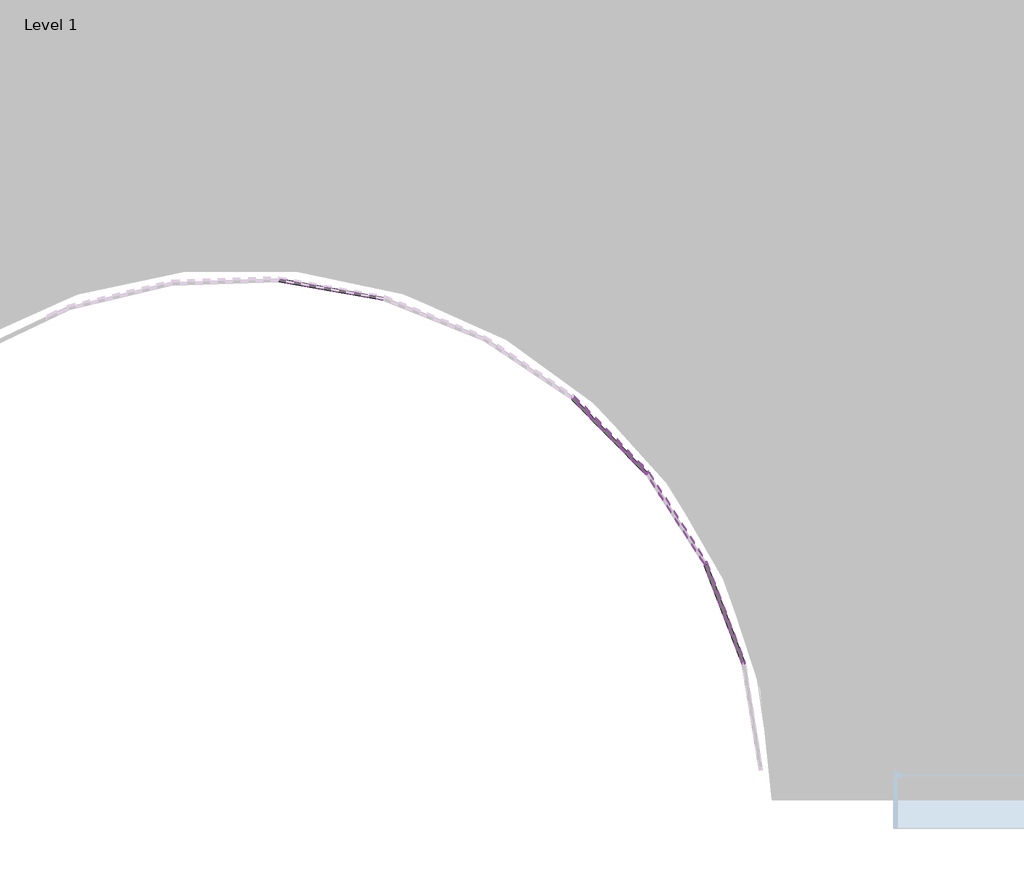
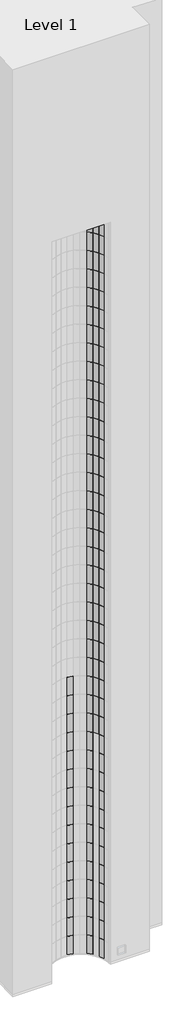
# One storey, part 9 of 20: 123 plates.
"""IFC4 building model written with IfcOpenShell, lengths in millimetres."""

from ifc_helpers import new_model, si_unit, origin, place, context, project, spatial, transform, mapped, element, save
from components import system_panel_glazed_d77d1ebf

model = new_model("IFC4")

# Units and contexts
model_context = context("Model", 3, world=origin())
ifc_project = project(units=[si_unit("LENGTHUNIT", "METRE", prefix="MILLI")], contexts=[model_context])

# Site, building, storey
site = spatial("IfcSite", under=ifc_project)
building = spatial("IfcBuilding", under=site)
storey = spatial("IfcBuildingStorey", under=building, Name="Level 1", Elevation=0.0)

# Plates
placement = place(None, origin())
system_panel_glazed_shape = system_panel_glazed_d77d1ebf(model_context)
element("IfcPlate", 1, ObjectType="System Panel : Glazed", at=placement, inside=storey, context=model_context, shape_type="MappedRepresentation", body=[
    mapped(system_panel_glazed_shape, transform((4291.5961904, -17071.9370863, 0.0), x_axis=(-0.9845824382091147, 0.17492118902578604, 0.0), y_axis=(-0.17492118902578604, -0.9845824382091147, 0.0), z_axis=(0.0, 0.0, 1.0))),
])
element("IfcPlate", 2, ObjectType="System Panel : Glazed", at=placement, inside=storey, context=model_context, shape_type="MappedRepresentation", body=[
    mapped(system_panel_glazed_shape, transform((4291.5961904, -17071.9370863, 3048.0), x_axis=(-0.9845824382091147, 0.17492118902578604, 0.0), y_axis=(-0.17492118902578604, -0.9845824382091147, 0.0), z_axis=(0.0, 0.0, 1.0))),
])
element("IfcPlate", 3, ObjectType="System Panel : Glazed", at=placement, inside=storey, context=model_context, shape_type="MappedRepresentation", body=[
    mapped(system_panel_glazed_shape, transform((4291.5961904, -17071.9370863, 6096.0), x_axis=(-0.9845824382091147, 0.17492118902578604, 0.0), y_axis=(-0.17492118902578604, -0.9845824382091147, 0.0), z_axis=(0.0, 0.0, 1.0))),
])
element("IfcPlate", 4, ObjectType="System Panel : Glazed", at=placement, inside=storey, context=model_context, shape_type="MappedRepresentation", body=[
    mapped(system_panel_glazed_shape, transform((4291.5961904, -17071.9370863, 9144.0), x_axis=(-0.9845824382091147, 0.17492118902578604, 0.0), y_axis=(-0.17492118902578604, -0.9845824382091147, 0.0), z_axis=(0.0, 0.0, 1.0))),
])
element("IfcPlate", 5, ObjectType="System Panel : Glazed", at=placement, inside=storey, context=model_context, shape_type="MappedRepresentation", body=[
    mapped(system_panel_glazed_shape, transform((4291.5961904, -17071.9370863, 12192.0), x_axis=(-0.9845824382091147, 0.17492118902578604, 0.0), y_axis=(-0.17492118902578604, -0.9845824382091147, 0.0), z_axis=(0.0, 0.0, 1.0))),
])
element("IfcPlate", 6, ObjectType="System Panel : Glazed", at=placement, inside=storey, context=model_context, shape_type="MappedRepresentation", body=[
    mapped(system_panel_glazed_shape, transform((4291.5961904, -17071.9370863, 15240.0), x_axis=(-0.9845824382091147, 0.17492118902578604, 0.0), y_axis=(-0.17492118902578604, -0.9845824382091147, 0.0), z_axis=(0.0, 0.0, 1.0))),
])
element("IfcPlate", 7, ObjectType="System Panel : Glazed", at=placement, inside=storey, context=model_context, shape_type="MappedRepresentation", body=[
    mapped(system_panel_glazed_shape, transform((4291.5961904, -17071.9370863, 18288.0), x_axis=(-0.9845824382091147, 0.17492118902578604, 0.0), y_axis=(-0.17492118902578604, -0.9845824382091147, 0.0), z_axis=(0.0, 0.0, 1.0))),
])
element("IfcPlate", 8, ObjectType="System Panel : Glazed", at=placement, inside=storey, context=model_context, shape_type="MappedRepresentation", body=[
    mapped(system_panel_glazed_shape, transform((4291.5961904, -17071.9370863, 21336.0), x_axis=(-0.9845824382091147, 0.17492118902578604, 0.0), y_axis=(-0.17492118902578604, -0.9845824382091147, 0.0), z_axis=(0.0, 0.0, 1.0))),
])
element("IfcPlate", 9, ObjectType="System Panel : Glazed", at=placement, inside=storey, context=model_context, shape_type="MappedRepresentation", body=[
    mapped(system_panel_glazed_shape, transform((4291.5961904, -17071.9370863, 24384.0), x_axis=(-0.9845824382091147, 0.17492118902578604, 0.0), y_axis=(-0.17492118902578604, -0.9845824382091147, 0.0), z_axis=(0.0, 0.0, 1.0))),
])
element("IfcPlate", 10, ObjectType="System Panel : Glazed", at=placement, inside=storey, context=model_context, shape_type="MappedRepresentation", body=[
    mapped(system_panel_glazed_shape, transform((4291.5961904, -17071.9370863, 27432.0), x_axis=(-0.9845824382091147, 0.17492118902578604, 0.0), y_axis=(-0.17492118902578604, -0.9845824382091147, 0.0), z_axis=(0.0, 0.0, 1.0))),
])
element("IfcPlate", 11, ObjectType="System Panel : Glazed", at=placement, inside=storey, context=model_context, shape_type="MappedRepresentation", body=[
    mapped(system_panel_glazed_shape, transform((4291.5961904, -17071.9370863, 30480.0), x_axis=(-0.9845824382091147, 0.17492118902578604, 0.0), y_axis=(-0.17492118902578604, -0.9845824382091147, 0.0), z_axis=(0.0, 0.0, 1.0))),
])
element("IfcPlate", 12, ObjectType="System Panel : Glazed", at=placement, inside=storey, context=model_context, shape_type="MappedRepresentation", body=[
    mapped(system_panel_glazed_shape, transform((4291.5961904, -17071.9370863, 33528.0), x_axis=(-0.9845824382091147, 0.17492118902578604, 0.0), y_axis=(-0.17492118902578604, -0.9845824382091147, 0.0), z_axis=(0.0, 0.0, 1.0))),
])
element("IfcPlate", 13, ObjectType="System Panel : Glazed", at=placement, inside=storey, context=model_context, shape_type="MappedRepresentation", body=[
    mapped(system_panel_glazed_shape, transform((4291.5961904, -17071.9370863, 36576.0), x_axis=(-0.9845824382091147, 0.17492118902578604, 0.0), y_axis=(-0.17492118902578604, -0.9845824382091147, 0.0), z_axis=(0.0, 0.0, 1.0))),
])
element("IfcPlate", 14, ObjectType="System Panel : Glazed", at=placement, inside=storey, context=model_context, shape_type="MappedRepresentation", body=[
    mapped(system_panel_glazed_shape, transform((4291.5961904, -17071.9370863, 39624.0), x_axis=(-0.9845824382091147, 0.17492118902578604, 0.0), y_axis=(-0.17492118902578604, -0.9845824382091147, 0.0), z_axis=(0.0, 0.0, 1.0))),
])
element("IfcPlate", 15, ObjectType="System Panel : Glazed", at=placement, inside=storey, context=model_context, shape_type="MappedRepresentation", body=[
    mapped(system_panel_glazed_shape, transform((4291.5961904, -17071.9370863, 42672.0), x_axis=(-0.9845824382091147, 0.17492118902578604, 0.0), y_axis=(-0.17492118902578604, -0.9845824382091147, 0.0), z_axis=(0.0, 0.0, 1.0))),
])
element("IfcPlate", 16, ObjectType="System Panel : Glazed", at=placement, inside=storey, context=model_context, shape_type="MappedRepresentation", body=[
    mapped(system_panel_glazed_shape, transform((6671.9279427, -18325.4865679, 0.0), x_axis=(-0.7012698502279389, 0.7128959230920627, 0.0), y_axis=(-0.7128959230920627, -0.7012698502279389, 0.0), z_axis=(0.0, 0.0, 1.0))),
])
element("IfcPlate", 17, ObjectType="System Panel : Glazed", at=placement, inside=storey, context=model_context, shape_type="MappedRepresentation", body=[
    mapped(system_panel_glazed_shape, transform((6671.9279427, -18325.4865679, 3048.0), x_axis=(-0.7012698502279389, 0.7128959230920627, 0.0), y_axis=(-0.7128959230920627, -0.7012698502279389, 0.0), z_axis=(0.0, 0.0, 1.0))),
])
element("IfcPlate", 18, ObjectType="System Panel : Glazed", at=placement, inside=storey, context=model_context, shape_type="MappedRepresentation", body=[
    mapped(system_panel_glazed_shape, transform((6671.9279427, -18325.4865679, 6096.0), x_axis=(-0.7012698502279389, 0.7128959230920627, 0.0), y_axis=(-0.7128959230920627, -0.7012698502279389, 0.0), z_axis=(0.0, 0.0, 1.0))),
])
element("IfcPlate", 19, ObjectType="System Panel : Glazed", at=placement, inside=storey, context=model_context, shape_type="MappedRepresentation", body=[
    mapped(system_panel_glazed_shape, transform((6671.9279427, -18325.4865679, 9144.0), x_axis=(-0.7012698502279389, 0.7128959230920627, 0.0), y_axis=(-0.7128959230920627, -0.7012698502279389, 0.0), z_axis=(0.0, 0.0, 1.0))),
])
element("IfcPlate", 20, ObjectType="System Panel : Glazed", at=placement, inside=storey, context=model_context, shape_type="MappedRepresentation", body=[
    mapped(system_panel_glazed_shape, transform((6671.9279427, -18325.4865679, 12192.0), x_axis=(-0.7012698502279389, 0.7128959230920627, 0.0), y_axis=(-0.7128959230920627, -0.7012698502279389, 0.0), z_axis=(0.0, 0.0, 1.0))),
])
element("IfcPlate", 21, ObjectType="System Panel : Glazed", at=placement, inside=storey, context=model_context, shape_type="MappedRepresentation", body=[
    mapped(system_panel_glazed_shape, transform((6671.9279427, -18325.4865679, 15240.0), x_axis=(-0.7012698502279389, 0.7128959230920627, 0.0), y_axis=(-0.7128959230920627, -0.7012698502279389, 0.0), z_axis=(0.0, 0.0, 1.0))),
])
element("IfcPlate", 22, ObjectType="System Panel : Glazed", at=placement, inside=storey, context=model_context, shape_type="MappedRepresentation", body=[
    mapped(system_panel_glazed_shape, transform((6671.9279427, -18325.4865679, 18288.0), x_axis=(-0.7012698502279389, 0.7128959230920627, 0.0), y_axis=(-0.7128959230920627, -0.7012698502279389, 0.0), z_axis=(0.0, 0.0, 1.0))),
])
element("IfcPlate", 23, ObjectType="System Panel : Glazed", at=placement, inside=storey, context=model_context, shape_type="MappedRepresentation", body=[
    mapped(system_panel_glazed_shape, transform((6671.9279427, -18325.4865679, 21336.0), x_axis=(-0.7012698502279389, 0.7128959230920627, 0.0), y_axis=(-0.7128959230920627, -0.7012698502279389, 0.0), z_axis=(0.0, 0.0, 1.0))),
])
element("IfcPlate", 24, ObjectType="System Panel : Glazed", at=placement, inside=storey, context=model_context, shape_type="MappedRepresentation", body=[
    mapped(system_panel_glazed_shape, transform((6671.9279427, -18325.4865679, 24384.0), x_axis=(-0.7012698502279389, 0.7128959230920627, 0.0), y_axis=(-0.7128959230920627, -0.7012698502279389, 0.0), z_axis=(0.0, 0.0, 1.0))),
])
element("IfcPlate", 25, ObjectType="System Panel : Glazed", at=placement, inside=storey, context=model_context, shape_type="MappedRepresentation", body=[
    mapped(system_panel_glazed_shape, transform((6671.9279427, -18325.4865679, 27432.0), x_axis=(-0.7012698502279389, 0.7128959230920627, 0.0), y_axis=(-0.7128959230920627, -0.7012698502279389, 0.0), z_axis=(0.0, 0.0, 1.0))),
])
element("IfcPlate", 26, ObjectType="System Panel : Glazed", at=placement, inside=storey, context=model_context, shape_type="MappedRepresentation", body=[
    mapped(system_panel_glazed_shape, transform((6671.9279427, -18325.4865679, 30480.0), x_axis=(-0.7012698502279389, 0.7128959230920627, 0.0), y_axis=(-0.7128959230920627, -0.7012698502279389, 0.0), z_axis=(0.0, 0.0, 1.0))),
])
element("IfcPlate", 27, ObjectType="System Panel : Glazed", at=placement, inside=storey, context=model_context, shape_type="MappedRepresentation", body=[
    mapped(system_panel_glazed_shape, transform((6671.9279427, -18325.4865679, 33528.0), x_axis=(-0.7012698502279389, 0.7128959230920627, 0.0), y_axis=(-0.7128959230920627, -0.7012698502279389, 0.0), z_axis=(0.0, 0.0, 1.0))),
])
element("IfcPlate", 28, ObjectType="System Panel : Glazed", at=placement, inside=storey, context=model_context, shape_type="MappedRepresentation", body=[
    mapped(system_panel_glazed_shape, transform((6671.9279427, -18325.4865679, 36576.0), x_axis=(-0.7012698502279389, 0.7128959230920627, 0.0), y_axis=(-0.7128959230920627, -0.7012698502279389, 0.0), z_axis=(0.0, 0.0, 1.0))),
])
element("IfcPlate", 29, ObjectType="System Panel : Glazed", at=placement, inside=storey, context=model_context, shape_type="MappedRepresentation", body=[
    mapped(system_panel_glazed_shape, transform((6671.9279427, -18325.4865679, 39624.0), x_axis=(-0.7012698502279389, 0.7128959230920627, 0.0), y_axis=(-0.7128959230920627, -0.7012698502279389, 0.0), z_axis=(0.0, 0.0, 1.0))),
])
element("IfcPlate", 30, ObjectType="System Panel : Glazed", at=placement, inside=storey, context=model_context, shape_type="MappedRepresentation", body=[
    mapped(system_panel_glazed_shape, transform((6671.9279427, -18325.4865679, 42672.0), x_axis=(-0.7012698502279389, 0.7128959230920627, 0.0), y_axis=(-0.7128959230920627, -0.7012698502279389, 0.0), z_axis=(0.0, 0.0, 1.0))),
])
element("IfcPlate", 31, ObjectType="System Panel : Glazed", at=placement, inside=storey, context=model_context, shape_type="MappedRepresentation", body=[
    mapped(system_panel_glazed_shape, transform((6671.9279427, -18325.4865679, 45720.0), x_axis=(-0.7012698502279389, 0.7128959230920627, 0.0), y_axis=(-0.7128959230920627, -0.7012698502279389, 0.0), z_axis=(0.0, 0.0, 1.0))),
])
element("IfcPlate", 32, ObjectType="System Panel : Glazed", at=placement, inside=storey, context=model_context, shape_type="MappedRepresentation", body=[
    mapped(system_panel_glazed_shape, transform((6671.9279427, -18325.4865679, 48768.0), x_axis=(-0.7012698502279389, 0.7128959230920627, 0.0), y_axis=(-0.7128959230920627, -0.7012698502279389, 0.0), z_axis=(0.0, 0.0, 1.0))),
])
element("IfcPlate", 33, ObjectType="System Panel : Glazed", at=placement, inside=storey, context=model_context, shape_type="MappedRepresentation", body=[
    mapped(system_panel_glazed_shape, transform((6671.9279427, -18325.4865679, 51816.0), x_axis=(-0.7012698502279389, 0.7128959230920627, 0.0), y_axis=(-0.7128959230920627, -0.7012698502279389, 0.0), z_axis=(0.0, 0.0, 1.0))),
])
element("IfcPlate", 34, ObjectType="System Panel : Glazed", at=placement, inside=storey, context=model_context, shape_type="MappedRepresentation", body=[
    mapped(system_panel_glazed_shape, transform((6671.9279427, -18325.4865679, 54864.0), x_axis=(-0.7012698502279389, 0.7128959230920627, 0.0), y_axis=(-0.7128959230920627, -0.7012698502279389, 0.0), z_axis=(0.0, 0.0, 1.0))),
])
element("IfcPlate", 35, ObjectType="System Panel : Glazed", at=placement, inside=storey, context=model_context, shape_type="MappedRepresentation", body=[
    mapped(system_panel_glazed_shape, transform((6671.9279427, -18325.4865679, 57912.0), x_axis=(-0.7012698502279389, 0.7128959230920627, 0.0), y_axis=(-0.7128959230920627, -0.7012698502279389, 0.0), z_axis=(0.0, 0.0, 1.0))),
])
element("IfcPlate", 36, ObjectType="System Panel : Glazed", at=placement, inside=storey, context=model_context, shape_type="MappedRepresentation", body=[
    mapped(system_panel_glazed_shape, transform((6671.9279427, -18325.4865679, 60960.0), x_axis=(-0.7012698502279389, 0.7128959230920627, 0.0), y_axis=(-0.7128959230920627, -0.7012698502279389, 0.0), z_axis=(0.0, 0.0, 1.0))),
])
element("IfcPlate", 37, ObjectType="System Panel : Glazed", at=placement, inside=storey, context=model_context, shape_type="MappedRepresentation", body=[
    mapped(system_panel_glazed_shape, transform((6671.9279427, -18325.4865679, 64008.0), x_axis=(-0.7012698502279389, 0.7128959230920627, 0.0), y_axis=(-0.7128959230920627, -0.7012698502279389, 0.0), z_axis=(0.0, 0.0, 1.0))),
])
element("IfcPlate", 38, ObjectType="System Panel : Glazed", at=placement, inside=storey, context=model_context, shape_type="MappedRepresentation", body=[
    mapped(system_panel_glazed_shape, transform((6671.9279427, -18325.4865679, 67056.0), x_axis=(-0.7012698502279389, 0.7128959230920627, 0.0), y_axis=(-0.7128959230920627, -0.7012698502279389, 0.0), z_axis=(0.0, 0.0, 1.0))),
])
element("IfcPlate", 39, ObjectType="System Panel : Glazed", at=placement, inside=storey, context=model_context, shape_type="MappedRepresentation", body=[
    mapped(system_panel_glazed_shape, transform((6671.9279427, -18325.4865679, 70104.0), x_axis=(-0.7012698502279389, 0.7128959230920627, 0.0), y_axis=(-0.7128959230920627, -0.7012698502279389, 0.0), z_axis=(0.0, 0.0, 1.0))),
])
element("IfcPlate", 40, ObjectType="System Panel : Glazed", at=placement, inside=storey, context=model_context, shape_type="MappedRepresentation", body=[
    mapped(system_panel_glazed_shape, transform((6671.9279427, -18325.4865679, 73152.0), x_axis=(-0.7012698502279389, 0.7128959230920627, 0.0), y_axis=(-0.7128959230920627, -0.7012698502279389, 0.0), z_axis=(0.0, 0.0, 1.0))),
])
element("IfcPlate", 41, ObjectType="System Panel : Glazed", at=placement, inside=storey, context=model_context, shape_type="MappedRepresentation", body=[
    mapped(system_panel_glazed_shape, transform((6671.9279427, -18325.4865679, 76200.0), x_axis=(-0.7012698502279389, 0.7128959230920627, 0.0), y_axis=(-0.7128959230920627, -0.7012698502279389, 0.0), z_axis=(0.0, 0.0, 1.0))),
])
element("IfcPlate", 42, ObjectType="System Panel : Glazed", at=placement, inside=storey, context=model_context, shape_type="MappedRepresentation", body=[
    mapped(system_panel_glazed_shape, transform((6671.9279427, -18325.4865679, 79248.0), x_axis=(-0.7012698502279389, 0.7128959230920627, 0.0), y_axis=(-0.7128959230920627, -0.7012698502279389, 0.0), z_axis=(0.0, 0.0, 1.0))),
])
element("IfcPlate", 43, ObjectType="System Panel : Glazed", at=placement, inside=storey, context=model_context, shape_type="MappedRepresentation", body=[
    mapped(system_panel_glazed_shape, transform((6671.9279427, -18325.4865679, 82296.0), x_axis=(-0.7012698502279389, 0.7128959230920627, 0.0), y_axis=(-0.7128959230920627, -0.7012698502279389, 0.0), z_axis=(0.0, 0.0, 1.0))),
])
element("IfcPlate", 44, ObjectType="System Panel : Glazed", at=placement, inside=storey, context=model_context, shape_type="MappedRepresentation", body=[
    mapped(system_panel_glazed_shape, transform((6671.9279427, -18325.4865679, 85344.0), x_axis=(-0.7012698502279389, 0.7128959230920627, 0.0), y_axis=(-0.7128959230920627, -0.7012698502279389, 0.0), z_axis=(0.0, 0.0, 1.0))),
])
element("IfcPlate", 45, ObjectType="System Panel : Glazed", at=placement, inside=storey, context=model_context, shape_type="MappedRepresentation", body=[
    mapped(system_panel_glazed_shape, transform((6671.9279427, -18325.4865679, 88392.0), x_axis=(-0.7012698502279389, 0.7128959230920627, 0.0), y_axis=(-0.7128959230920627, -0.7012698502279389, 0.0), z_axis=(0.0, 0.0, 1.0))),
])
element("IfcPlate", 46, ObjectType="System Panel : Glazed", at=placement, inside=storey, context=model_context, shape_type="MappedRepresentation", body=[
    mapped(system_panel_glazed_shape, transform((6671.9279427, -18325.4865679, 91440.0), x_axis=(-0.7012698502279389, 0.7128959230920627, 0.0), y_axis=(-0.7128959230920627, -0.7012698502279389, 0.0), z_axis=(0.0, 0.0, 1.0))),
])
element("IfcPlate", 47, ObjectType="System Panel : Glazed", at=placement, inside=storey, context=model_context, shape_type="MappedRepresentation", body=[
    mapped(system_panel_glazed_shape, transform((6671.9279427, -18325.4865679, 94488.0), x_axis=(-0.7012698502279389, 0.7128959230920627, 0.0), y_axis=(-0.7128959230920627, -0.7012698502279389, 0.0), z_axis=(0.0, 0.0, 1.0))),
])
element("IfcPlate", 48, ObjectType="System Panel : Glazed", at=placement, inside=storey, context=model_context, shape_type="MappedRepresentation", body=[
    mapped(system_panel_glazed_shape, transform((6671.9279427, -18325.4865679, 97536.0), x_axis=(-0.7012698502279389, 0.7128959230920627, 0.0), y_axis=(-0.7128959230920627, -0.7012698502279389, 0.0), z_axis=(0.0, 0.0, 1.0))),
])
element("IfcPlate", 49, ObjectType="System Panel : Glazed", at=placement, inside=storey, context=model_context, shape_type="MappedRepresentation", body=[
    mapped(system_panel_glazed_shape, transform((6671.9279427, -18325.4865679, 100584.0), x_axis=(-0.7012698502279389, 0.7128959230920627, 0.0), y_axis=(-0.7128959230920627, -0.7012698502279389, 0.0), z_axis=(0.0, 0.0, 1.0))),
])
element("IfcPlate", 50, ObjectType="System Panel : Glazed", at=placement, inside=storey, context=model_context, shape_type="MappedRepresentation", body=[
    mapped(system_panel_glazed_shape, transform((7239.747729, -19036.0319834, 36576.0), x_axis=(-0.5406806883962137, 0.8412279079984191, 0.0), y_axis=(-0.8412279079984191, -0.5406806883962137, 0.0), z_axis=(0.0, 0.0, 1.0))),
])
element("IfcPlate", 51, ObjectType="System Panel : Glazed", at=placement, inside=storey, context=model_context, shape_type="MappedRepresentation", body=[
    mapped(system_panel_glazed_shape, transform((7239.747729, -19036.0319834, 39624.0), x_axis=(-0.5406806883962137, 0.8412279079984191, 0.0), y_axis=(-0.8412279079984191, -0.5406806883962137, 0.0), z_axis=(0.0, 0.0, 1.0))),
])
element("IfcPlate", 52, ObjectType="System Panel : Glazed", at=placement, inside=storey, context=model_context, shape_type="MappedRepresentation", body=[
    mapped(system_panel_glazed_shape, transform((7239.747729, -19036.0319834, 42672.0), x_axis=(-0.5406806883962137, 0.8412279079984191, 0.0), y_axis=(-0.8412279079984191, -0.5406806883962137, 0.0), z_axis=(0.0, 0.0, 1.0))),
])
element("IfcPlate", 53, ObjectType="System Panel : Glazed", at=placement, inside=storey, context=model_context, shape_type="MappedRepresentation", body=[
    mapped(system_panel_glazed_shape, transform((7239.747729, -19036.0319834, 45720.0), x_axis=(-0.5406806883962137, 0.8412279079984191, 0.0), y_axis=(-0.8412279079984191, -0.5406806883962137, 0.0), z_axis=(0.0, 0.0, 1.0))),
])
element("IfcPlate", 54, ObjectType="System Panel : Glazed", at=placement, inside=storey, context=model_context, shape_type="MappedRepresentation", body=[
    mapped(system_panel_glazed_shape, transform((7239.747729, -19036.0319834, 48768.0), x_axis=(-0.5406806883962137, 0.8412279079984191, 0.0), y_axis=(-0.8412279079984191, -0.5406806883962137, 0.0), z_axis=(0.0, 0.0, 1.0))),
])
element("IfcPlate", 55, ObjectType="System Panel : Glazed", at=placement, inside=storey, context=model_context, shape_type="MappedRepresentation", body=[
    mapped(system_panel_glazed_shape, transform((7239.747729, -19036.0319834, 51816.0), x_axis=(-0.5406806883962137, 0.8412279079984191, 0.0), y_axis=(-0.8412279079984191, -0.5406806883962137, 0.0), z_axis=(0.0, 0.0, 1.0))),
])
element("IfcPlate", 56, ObjectType="System Panel : Glazed", at=placement, inside=storey, context=model_context, shape_type="MappedRepresentation", body=[
    mapped(system_panel_glazed_shape, transform((7239.747729, -19036.0319834, 54864.0), x_axis=(-0.5406806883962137, 0.8412279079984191, 0.0), y_axis=(-0.8412279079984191, -0.5406806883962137, 0.0), z_axis=(0.0, 0.0, 1.0))),
])
element("IfcPlate", 57, ObjectType="System Panel : Glazed", at=placement, inside=storey, context=model_context, shape_type="MappedRepresentation", body=[
    mapped(system_panel_glazed_shape, transform((7239.747729, -19036.0319834, 57912.0), x_axis=(-0.5406806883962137, 0.8412279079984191, 0.0), y_axis=(-0.8412279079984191, -0.5406806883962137, 0.0), z_axis=(0.0, 0.0, 1.0))),
])
element("IfcPlate", 58, ObjectType="System Panel : Glazed", at=placement, inside=storey, context=model_context, shape_type="MappedRepresentation", body=[
    mapped(system_panel_glazed_shape, transform((7239.747729, -19036.0319834, 60960.0), x_axis=(-0.5406806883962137, 0.8412279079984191, 0.0), y_axis=(-0.8412279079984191, -0.5406806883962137, 0.0), z_axis=(0.0, 0.0, 1.0))),
])
element("IfcPlate", 59, ObjectType="System Panel : Glazed", at=placement, inside=storey, context=model_context, shape_type="MappedRepresentation", body=[
    mapped(system_panel_glazed_shape, transform((7239.747729, -19036.0319834, 64008.0), x_axis=(-0.5406806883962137, 0.8412279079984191, 0.0), y_axis=(-0.8412279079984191, -0.5406806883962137, 0.0), z_axis=(0.0, 0.0, 1.0))),
])
element("IfcPlate", 60, ObjectType="System Panel : Glazed", at=placement, inside=storey, context=model_context, shape_type="MappedRepresentation", body=[
    mapped(system_panel_glazed_shape, transform((7239.747729, -19036.0319834, 67056.0), x_axis=(-0.5406806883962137, 0.8412279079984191, 0.0), y_axis=(-0.8412279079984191, -0.5406806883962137, 0.0), z_axis=(0.0, 0.0, 1.0))),
])
element("IfcPlate", 61, ObjectType="System Panel : Glazed", at=placement, inside=storey, context=model_context, shape_type="MappedRepresentation", body=[
    mapped(system_panel_glazed_shape, transform((7239.747729, -19036.0319834, 70104.0), x_axis=(-0.5406806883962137, 0.8412279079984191, 0.0), y_axis=(-0.8412279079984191, -0.5406806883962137, 0.0), z_axis=(0.0, 0.0, 1.0))),
])
element("IfcPlate", 62, ObjectType="System Panel : Glazed", at=placement, inside=storey, context=model_context, shape_type="MappedRepresentation", body=[
    mapped(system_panel_glazed_shape, transform((7239.747729, -19036.0319834, 73152.0), x_axis=(-0.5406806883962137, 0.8412279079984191, 0.0), y_axis=(-0.8412279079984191, -0.5406806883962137, 0.0), z_axis=(0.0, 0.0, 1.0))),
])
element("IfcPlate", 63, ObjectType="System Panel : Glazed", at=placement, inside=storey, context=model_context, shape_type="MappedRepresentation", body=[
    mapped(system_panel_glazed_shape, transform((7239.747729, -19036.0319834, 76200.0), x_axis=(-0.5406806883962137, 0.8412279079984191, 0.0), y_axis=(-0.8412279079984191, -0.5406806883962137, 0.0), z_axis=(0.0, 0.0, 1.0))),
])
element("IfcPlate", 64, ObjectType="System Panel : Glazed", at=placement, inside=storey, context=model_context, shape_type="MappedRepresentation", body=[
    mapped(system_panel_glazed_shape, transform((7239.747729, -19036.0319834, 79248.0), x_axis=(-0.5406806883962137, 0.8412279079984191, 0.0), y_axis=(-0.8412279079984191, -0.5406806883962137, 0.0), z_axis=(0.0, 0.0, 1.0))),
])
element("IfcPlate", 65, ObjectType="System Panel : Glazed", at=placement, inside=storey, context=model_context, shape_type="MappedRepresentation", body=[
    mapped(system_panel_glazed_shape, transform((7239.747729, -19036.0319834, 82296.0), x_axis=(-0.5406806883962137, 0.8412279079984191, 0.0), y_axis=(-0.8412279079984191, -0.5406806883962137, 0.0), z_axis=(0.0, 0.0, 1.0))),
])
element("IfcPlate", 66, ObjectType="System Panel : Glazed", at=placement, inside=storey, context=model_context, shape_type="MappedRepresentation", body=[
    mapped(system_panel_glazed_shape, transform((7239.747729, -19036.0319834, 85344.0), x_axis=(-0.5406806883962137, 0.8412279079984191, 0.0), y_axis=(-0.8412279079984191, -0.5406806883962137, 0.0), z_axis=(0.0, 0.0, 1.0))),
])
element("IfcPlate", 67, ObjectType="System Panel : Glazed", at=placement, inside=storey, context=model_context, shape_type="MappedRepresentation", body=[
    mapped(system_panel_glazed_shape, transform((7239.747729, -19036.0319834, 88392.0), x_axis=(-0.5406806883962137, 0.8412279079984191, 0.0), y_axis=(-0.8412279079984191, -0.5406806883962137, 0.0), z_axis=(0.0, 0.0, 1.0))),
])
element("IfcPlate", 68, ObjectType="System Panel : Glazed", at=placement, inside=storey, context=model_context, shape_type="MappedRepresentation", body=[
    mapped(system_panel_glazed_shape, transform((7239.747729, -19036.0319834, 91440.0), x_axis=(-0.5406806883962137, 0.8412279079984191, 0.0), y_axis=(-0.8412279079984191, -0.5406806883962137, 0.0), z_axis=(0.0, 0.0, 1.0))),
])
element("IfcPlate", 69, ObjectType="System Panel : Glazed", at=placement, inside=storey, context=model_context, shape_type="MappedRepresentation", body=[
    mapped(system_panel_glazed_shape, transform((7239.747729, -19036.0319834, 94488.0), x_axis=(-0.5406806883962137, 0.8412279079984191, 0.0), y_axis=(-0.8412279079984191, -0.5406806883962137, 0.0), z_axis=(0.0, 0.0, 1.0))),
])
element("IfcPlate", 70, ObjectType="System Panel : Glazed", at=placement, inside=storey, context=model_context, shape_type="MappedRepresentation", body=[
    mapped(system_panel_glazed_shape, transform((7239.747729, -19036.0319834, 97536.0), x_axis=(-0.5406806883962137, 0.8412279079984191, 0.0), y_axis=(-0.8412279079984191, -0.5406806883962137, 0.0), z_axis=(0.0, 0.0, 1.0))),
])
element("IfcPlate", 71, ObjectType="System Panel : Glazed", at=placement, inside=storey, context=model_context, shape_type="MappedRepresentation", body=[
    mapped(system_panel_glazed_shape, transform((7239.747729, -19036.0319834, 100584.0), x_axis=(-0.5406806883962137, 0.8412279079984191, 0.0), y_axis=(-0.8412279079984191, -0.5406806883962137, 0.0), z_axis=(0.0, 0.0, 1.0))),
])
element("IfcPlate", 72, ObjectType="System Panel : Glazed", at=placement, inside=storey, context=model_context, shape_type="MappedRepresentation", body=[
    mapped(system_panel_glazed_shape, transform((7650.278647, -19847.6713508, 0.0), x_axis=(-0.3572434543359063, 0.9340113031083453, 0.0), y_axis=(-0.9340113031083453, -0.3572434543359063, 0.0), z_axis=(0.0, 0.0, 1.0))),
])
element("IfcPlate", 73, ObjectType="System Panel : Glazed", at=placement, inside=storey, context=model_context, shape_type="MappedRepresentation", body=[
    mapped(system_panel_glazed_shape, transform((7650.278647, -19847.6713508, 3048.0), x_axis=(-0.3572434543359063, 0.9340113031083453, 0.0), y_axis=(-0.9340113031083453, -0.3572434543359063, 0.0), z_axis=(0.0, 0.0, 1.0))),
])
element("IfcPlate", 74, ObjectType="System Panel : Glazed", at=placement, inside=storey, context=model_context, shape_type="MappedRepresentation", body=[
    mapped(system_panel_glazed_shape, transform((7650.278647, -19847.6713508, 6096.0), x_axis=(-0.3572434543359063, 0.9340113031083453, 0.0), y_axis=(-0.9340113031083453, -0.3572434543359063, 0.0), z_axis=(0.0, 0.0, 1.0))),
])
element("IfcPlate", 75, ObjectType="System Panel : Glazed", at=placement, inside=storey, context=model_context, shape_type="MappedRepresentation", body=[
    mapped(system_panel_glazed_shape, transform((7650.278647, -19847.6713508, 9144.0), x_axis=(-0.3572434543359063, 0.9340113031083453, 0.0), y_axis=(-0.9340113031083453, -0.3572434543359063, 0.0), z_axis=(0.0, 0.0, 1.0))),
])
element("IfcPlate", 76, ObjectType="System Panel : Glazed", at=placement, inside=storey, context=model_context, shape_type="MappedRepresentation", body=[
    mapped(system_panel_glazed_shape, transform((7650.278647, -19847.6713508, 12192.0), x_axis=(-0.3572434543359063, 0.9340113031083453, 0.0), y_axis=(-0.9340113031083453, -0.3572434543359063, 0.0), z_axis=(0.0, 0.0, 1.0))),
])
element("IfcPlate", 77, ObjectType="System Panel : Glazed", at=placement, inside=storey, context=model_context, shape_type="MappedRepresentation", body=[
    mapped(system_panel_glazed_shape, transform((7650.278647, -19847.6713508, 15240.0), x_axis=(-0.3572434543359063, 0.9340113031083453, 0.0), y_axis=(-0.9340113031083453, -0.3572434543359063, 0.0), z_axis=(0.0, 0.0, 1.0))),
])
element("IfcPlate", 78, ObjectType="System Panel : Glazed", at=placement, inside=storey, context=model_context, shape_type="MappedRepresentation", body=[
    mapped(system_panel_glazed_shape, transform((7650.278647, -19847.6713508, 18288.0), x_axis=(-0.35724345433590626, 0.9340113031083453, 0.0), y_axis=(-0.9340113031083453, -0.35724345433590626, 0.0), z_axis=(0.0, 0.0, 1.0))),
])
element("IfcPlate", 79, ObjectType="System Panel : Glazed", at=placement, inside=storey, context=model_context, shape_type="MappedRepresentation", body=[
    mapped(system_panel_glazed_shape, transform((7650.278647, -19847.6713508, 21336.0), x_axis=(-0.3572434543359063, 0.9340113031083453, 0.0), y_axis=(-0.9340113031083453, -0.3572434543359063, 0.0), z_axis=(0.0, 0.0, 1.0))),
])
element("IfcPlate", 80, ObjectType="System Panel : Glazed", at=placement, inside=storey, context=model_context, shape_type="MappedRepresentation", body=[
    mapped(system_panel_glazed_shape, transform((7650.278647, -19847.6713508, 24384.0), x_axis=(-0.3572434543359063, 0.9340113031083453, 0.0), y_axis=(-0.9340113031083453, -0.3572434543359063, 0.0), z_axis=(0.0, 0.0, 1.0))),
])
element("IfcPlate", 81, ObjectType="System Panel : Glazed", at=placement, inside=storey, context=model_context, shape_type="MappedRepresentation", body=[
    mapped(system_panel_glazed_shape, transform((7650.278647, -19847.6713508, 27432.0), x_axis=(-0.3572434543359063, 0.9340113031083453, 0.0), y_axis=(-0.9340113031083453, -0.3572434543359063, 0.0), z_axis=(0.0, 0.0, 1.0))),
])
element("IfcPlate", 82, ObjectType="System Panel : Glazed", at=placement, inside=storey, context=model_context, shape_type="MappedRepresentation", body=[
    mapped(system_panel_glazed_shape, transform((7650.278647, -19847.6713508, 30480.0), x_axis=(-0.3572434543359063, 0.9340113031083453, 0.0), y_axis=(-0.9340113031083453, -0.3572434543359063, 0.0), z_axis=(0.0, 0.0, 1.0))),
])
element("IfcPlate", 83, ObjectType="System Panel : Glazed", at=placement, inside=storey, context=model_context, shape_type="MappedRepresentation", body=[
    mapped(system_panel_glazed_shape, transform((7650.278647, -19847.6713508, 33528.0), x_axis=(-0.3572434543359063, 0.9340113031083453, 0.0), y_axis=(-0.9340113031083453, -0.3572434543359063, 0.0), z_axis=(0.0, 0.0, 1.0))),
])
element("IfcPlate", 84, ObjectType="System Panel : Glazed", at=placement, inside=storey, context=model_context, shape_type="MappedRepresentation", body=[
    mapped(system_panel_glazed_shape, transform((7650.278647, -19847.6713508, 36576.0), x_axis=(-0.3572434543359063, 0.9340113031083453, 0.0), y_axis=(-0.9340113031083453, -0.3572434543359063, 0.0), z_axis=(0.0, 0.0, 1.0))),
])
element("IfcPlate", 85, ObjectType="System Panel : Glazed", at=placement, inside=storey, context=model_context, shape_type="MappedRepresentation", body=[
    mapped(system_panel_glazed_shape, transform((7650.278647, -19847.6713508, 39624.0), x_axis=(-0.3572434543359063, 0.9340113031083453, 0.0), y_axis=(-0.9340113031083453, -0.3572434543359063, 0.0), z_axis=(0.0, 0.0, 1.0))),
])
element("IfcPlate", 86, ObjectType="System Panel : Glazed", at=placement, inside=storey, context=model_context, shape_type="MappedRepresentation", body=[
    mapped(system_panel_glazed_shape, transform((7650.278647, -19847.6713508, 42672.0), x_axis=(-0.3572434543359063, 0.9340113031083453, 0.0), y_axis=(-0.9340113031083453, -0.3572434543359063, 0.0), z_axis=(0.0, 0.0, 1.0))),
])
element("IfcPlate", 87, ObjectType="System Panel : Glazed", at=placement, inside=storey, context=model_context, shape_type="MappedRepresentation", body=[
    mapped(system_panel_glazed_shape, transform((7650.278647, -19847.6713508, 45720.0), x_axis=(-0.3572434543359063, 0.9340113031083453, 0.0), y_axis=(-0.9340113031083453, -0.3572434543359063, 0.0), z_axis=(0.0, 0.0, 1.0))),
])
element("IfcPlate", 88, ObjectType="System Panel : Glazed", at=placement, inside=storey, context=model_context, shape_type="MappedRepresentation", body=[
    mapped(system_panel_glazed_shape, transform((7650.278647, -19847.6713508, 48768.0), x_axis=(-0.3572434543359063, 0.9340113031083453, 0.0), y_axis=(-0.9340113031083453, -0.3572434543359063, 0.0), z_axis=(0.0, 0.0, 1.0))),
])
element("IfcPlate", 89, ObjectType="System Panel : Glazed", at=placement, inside=storey, context=model_context, shape_type="MappedRepresentation", body=[
    mapped(system_panel_glazed_shape, transform((7650.278647, -19847.6713508, 51816.0), x_axis=(-0.3572434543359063, 0.9340113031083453, 0.0), y_axis=(-0.9340113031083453, -0.3572434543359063, 0.0), z_axis=(0.0, 0.0, 1.0))),
])
element("IfcPlate", 90, ObjectType="System Panel : Glazed", at=placement, inside=storey, context=model_context, shape_type="MappedRepresentation", body=[
    mapped(system_panel_glazed_shape, transform((7650.278647, -19847.6713508, 54864.0), x_axis=(-0.3572434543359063, 0.9340113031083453, 0.0), y_axis=(-0.9340113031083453, -0.3572434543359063, 0.0), z_axis=(0.0, 0.0, 1.0))),
])
element("IfcPlate", 91, ObjectType="System Panel : Glazed", at=placement, inside=storey, context=model_context, shape_type="MappedRepresentation", body=[
    mapped(system_panel_glazed_shape, transform((7650.278647, -19847.6713508, 57912.0), x_axis=(-0.3572434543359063, 0.9340113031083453, 0.0), y_axis=(-0.9340113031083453, -0.3572434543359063, 0.0), z_axis=(0.0, 0.0, 1.0))),
])
element("IfcPlate", 92, ObjectType="System Panel : Glazed", at=placement, inside=storey, context=model_context, shape_type="MappedRepresentation", body=[
    mapped(system_panel_glazed_shape, transform((7650.278647, -19847.6713508, 60960.0), x_axis=(-0.3572434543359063, 0.9340113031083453, 0.0), y_axis=(-0.9340113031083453, -0.3572434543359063, 0.0), z_axis=(0.0, 0.0, 1.0))),
])
element("IfcPlate", 93, ObjectType="System Panel : Glazed", at=placement, inside=storey, context=model_context, shape_type="MappedRepresentation", body=[
    mapped(system_panel_glazed_shape, transform((7650.278647, -19847.6713508, 64008.0), x_axis=(-0.3572434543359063, 0.9340113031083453, 0.0), y_axis=(-0.9340113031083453, -0.3572434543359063, 0.0), z_axis=(0.0, 0.0, 1.0))),
])
element("IfcPlate", 94, ObjectType="System Panel : Glazed", at=placement, inside=storey, context=model_context, shape_type="MappedRepresentation", body=[
    mapped(system_panel_glazed_shape, transform((7650.278647, -19847.6713508, 67056.0), x_axis=(-0.3572434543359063, 0.9340113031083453, 0.0), y_axis=(-0.9340113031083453, -0.3572434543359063, 0.0), z_axis=(0.0, 0.0, 1.0))),
])
element("IfcPlate", 95, ObjectType="System Panel : Glazed", at=placement, inside=storey, context=model_context, shape_type="MappedRepresentation", body=[
    mapped(system_panel_glazed_shape, transform((7650.278647, -19847.6713508, 70104.0), x_axis=(-0.3572434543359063, 0.9340113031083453, 0.0), y_axis=(-0.9340113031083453, -0.3572434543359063, 0.0), z_axis=(0.0, 0.0, 1.0))),
])
element("IfcPlate", 96, ObjectType="System Panel : Glazed", at=placement, inside=storey, context=model_context, shape_type="MappedRepresentation", body=[
    mapped(system_panel_glazed_shape, transform((7650.278647, -19847.6713508, 73152.0), x_axis=(-0.3572434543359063, 0.9340113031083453, 0.0), y_axis=(-0.9340113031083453, -0.3572434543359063, 0.0), z_axis=(0.0, 0.0, 1.0))),
])
element("IfcPlate", 97, ObjectType="System Panel : Glazed", at=placement, inside=storey, context=model_context, shape_type="MappedRepresentation", body=[
    mapped(system_panel_glazed_shape, transform((7650.278647, -19847.6713508, 76200.0), x_axis=(-0.3572434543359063, 0.9340113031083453, 0.0), y_axis=(-0.9340113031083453, -0.3572434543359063, 0.0), z_axis=(0.0, 0.0, 1.0))),
])
element("IfcPlate", 98, ObjectType="System Panel : Glazed", at=placement, inside=storey, context=model_context, shape_type="MappedRepresentation", body=[
    mapped(system_panel_glazed_shape, transform((7650.278647, -19847.6713508, 79248.0), x_axis=(-0.3572434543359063, 0.9340113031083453, 0.0), y_axis=(-0.9340113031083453, -0.3572434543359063, 0.0), z_axis=(0.0, 0.0, 1.0))),
])
element("IfcPlate", 99, ObjectType="System Panel : Glazed", at=placement, inside=storey, context=model_context, shape_type="MappedRepresentation", body=[
    mapped(system_panel_glazed_shape, transform((7650.278647, -19847.6713508, 82296.0), x_axis=(-0.3572434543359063, 0.9340113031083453, 0.0), y_axis=(-0.9340113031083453, -0.3572434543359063, 0.0), z_axis=(0.0, 0.0, 1.0))),
])
element("IfcPlate", 100, ObjectType="System Panel : Glazed", at=placement, inside=storey, context=model_context, shape_type="MappedRepresentation", body=[
    mapped(system_panel_glazed_shape, transform((7650.278647, -19847.6713508, 85344.0), x_axis=(-0.3572434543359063, 0.9340113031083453, 0.0), y_axis=(-0.9340113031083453, -0.3572434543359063, 0.0), z_axis=(0.0, 0.0, 1.0))),
])
element("IfcPlate", 101, ObjectType="System Panel : Glazed", at=placement, inside=storey, context=model_context, shape_type="MappedRepresentation", body=[
    mapped(system_panel_glazed_shape, transform((7650.278647, -19847.6713508, 88392.0), x_axis=(-0.3572434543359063, 0.9340113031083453, 0.0), y_axis=(-0.9340113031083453, -0.3572434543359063, 0.0), z_axis=(0.0, 0.0, 1.0))),
])
element("IfcPlate", 102, ObjectType="System Panel : Glazed", at=placement, inside=storey, context=model_context, shape_type="MappedRepresentation", body=[
    mapped(system_panel_glazed_shape, transform((7650.278647, -19847.6713508, 91440.0), x_axis=(-0.3572434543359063, 0.9340113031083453, 0.0), y_axis=(-0.9340113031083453, -0.3572434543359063, 0.0), z_axis=(0.0, 0.0, 1.0))),
])
element("IfcPlate", 103, ObjectType="System Panel : Glazed", at=placement, inside=storey, context=model_context, shape_type="MappedRepresentation", body=[
    mapped(system_panel_glazed_shape, transform((7650.278647, -19847.6713508, 94488.0), x_axis=(-0.3572434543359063, 0.9340113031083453, 0.0), y_axis=(-0.9340113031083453, -0.3572434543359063, 0.0), z_axis=(0.0, 0.0, 1.0))),
])
element("IfcPlate", 104, ObjectType="System Panel : Glazed", at=placement, inside=storey, context=model_context, shape_type="MappedRepresentation", body=[
    mapped(system_panel_glazed_shape, transform((7650.278647, -19847.6713508, 97536.0), x_axis=(-0.3572434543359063, 0.9340113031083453, 0.0), y_axis=(-0.9340113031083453, -0.3572434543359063, 0.0), z_axis=(0.0, 0.0, 1.0))),
])
element("IfcPlate", 105, ObjectType="System Panel : Glazed", at=placement, inside=storey, context=model_context, shape_type="MappedRepresentation", body=[
    mapped(system_panel_glazed_shape, transform((7650.278647, -19847.6713508, 100584.0), x_axis=(-0.3572434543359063, 0.9340113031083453, 0.0), y_axis=(-0.9340113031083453, -0.3572434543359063, 0.0), z_axis=(0.0, 0.0, 1.0))),
])
element("IfcPlate", 106, ObjectType="System Panel : Glazed", at=placement, inside=storey, context=model_context, shape_type="MappedRepresentation", body=[
    mapped(system_panel_glazed_shape, transform((6671.9279427, -18325.4865679, 103632.0), x_axis=(-0.7012698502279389, 0.7128959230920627, 0.0), y_axis=(-0.7128959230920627, -0.7012698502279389, 0.0), z_axis=(0.0, 0.0, 1.0))),
])
element("IfcPlate", 107, ObjectType="System Panel : Glazed", at=placement, inside=storey, context=model_context, shape_type="MappedRepresentation", body=[
    mapped(system_panel_glazed_shape, transform((7239.747729, -19036.0319834, 103632.0), x_axis=(-0.5406806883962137, 0.8412279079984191, 0.0), y_axis=(-0.8412279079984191, -0.5406806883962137, 0.0), z_axis=(0.0, 0.0, 1.0))),
])
element("IfcPlate", 108, ObjectType="System Panel : Glazed", at=placement, inside=storey, context=model_context, shape_type="MappedRepresentation", body=[
    mapped(system_panel_glazed_shape, transform((7650.278647, -19847.6713508, 103632.0), x_axis=(-0.3572434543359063, 0.9340113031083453, 0.0), y_axis=(-0.9340113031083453, -0.3572434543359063, 0.0), z_axis=(0.0, 0.0, 1.0))),
])
element("IfcPlate", 109, ObjectType="System Panel : Glazed", at=placement, inside=storey, context=model_context, shape_type="MappedRepresentation", body=[
    mapped(system_panel_glazed_shape, transform((6671.9279427, -18325.4865679, 106680.0), x_axis=(-0.7012698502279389, 0.7128959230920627, 0.0), y_axis=(-0.7128959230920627, -0.7012698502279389, 0.0), z_axis=(0.0, 0.0, 1.0))),
])
element("IfcPlate", 110, ObjectType="System Panel : Glazed", at=placement, inside=storey, context=model_context, shape_type="MappedRepresentation", body=[
    mapped(system_panel_glazed_shape, transform((7239.747729, -19036.0319834, 106680.0), x_axis=(-0.5406806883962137, 0.8412279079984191, 0.0), y_axis=(-0.8412279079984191, -0.5406806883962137, 0.0), z_axis=(0.0, 0.0, 1.0))),
])
element("IfcPlate", 111, ObjectType="System Panel : Glazed", at=placement, inside=storey, context=model_context, shape_type="MappedRepresentation", body=[
    mapped(system_panel_glazed_shape, transform((7650.278647, -19847.6713508, 106680.0), x_axis=(-0.3572434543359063, 0.9340113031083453, 0.0), y_axis=(-0.9340113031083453, -0.3572434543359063, 0.0), z_axis=(0.0, 0.0, 1.0))),
])
element("IfcPlate", 112, ObjectType="System Panel : Glazed", at=placement, inside=storey, context=model_context, shape_type="MappedRepresentation", body=[
    mapped(system_panel_glazed_shape, transform((6671.9279427, -18325.4865679, 109728.0), x_axis=(-0.7012698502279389, 0.7128959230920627, 0.0), y_axis=(-0.7128959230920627, -0.7012698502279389, 0.0), z_axis=(0.0, 0.0, 1.0))),
])
element("IfcPlate", 113, ObjectType="System Panel : Glazed", at=placement, inside=storey, context=model_context, shape_type="MappedRepresentation", body=[
    mapped(system_panel_glazed_shape, transform((7239.747729, -19036.0319834, 109728.0), x_axis=(-0.5406806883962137, 0.8412279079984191, 0.0), y_axis=(-0.8412279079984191, -0.5406806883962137, 0.0), z_axis=(0.0, 0.0, 1.0))),
])
element("IfcPlate", 114, ObjectType="System Panel : Glazed", at=placement, inside=storey, context=model_context, shape_type="MappedRepresentation", body=[
    mapped(system_panel_glazed_shape, transform((7650.278647, -19847.6713508, 109728.0), x_axis=(-0.3572434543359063, 0.9340113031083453, 0.0), y_axis=(-0.9340113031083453, -0.3572434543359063, 0.0), z_axis=(0.0, 0.0, 1.0))),
])
element("IfcPlate", 115, ObjectType="System Panel : Glazed", at=placement, inside=storey, context=model_context, shape_type="MappedRepresentation", body=[
    mapped(system_panel_glazed_shape, transform((6671.9279427, -18325.4865679, 112776.0), x_axis=(-0.7012698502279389, 0.7128959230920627, 0.0), y_axis=(-0.7128959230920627, -0.7012698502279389, 0.0), z_axis=(0.0, 0.0, 1.0))),
])
element("IfcPlate", 116, ObjectType="System Panel : Glazed", at=placement, inside=storey, context=model_context, shape_type="MappedRepresentation", body=[
    mapped(system_panel_glazed_shape, transform((7239.747729, -19036.0319834, 112776.0), x_axis=(-0.5406806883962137, 0.8412279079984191, 0.0), y_axis=(-0.8412279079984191, -0.5406806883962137, 0.0), z_axis=(0.0, 0.0, 1.0))),
])
element("IfcPlate", 117, ObjectType="System Panel : Glazed", at=placement, inside=storey, context=model_context, shape_type="MappedRepresentation", body=[
    mapped(system_panel_glazed_shape, transform((7650.278647, -19847.6713508, 112776.0), x_axis=(-0.3572434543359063, 0.9340113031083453, 0.0), y_axis=(-0.9340113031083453, -0.3572434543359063, 0.0), z_axis=(0.0, 0.0, 1.0))),
])
element("IfcPlate", 118, ObjectType="System Panel : Glazed", at=placement, inside=storey, context=model_context, shape_type="MappedRepresentation", body=[
    mapped(system_panel_glazed_shape, transform((6671.9279427, -18325.4865679, 115824.0), x_axis=(-0.7012698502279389, 0.7128959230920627, 0.0), y_axis=(-0.7128959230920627, -0.7012698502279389, 0.0), z_axis=(0.0, 0.0, 1.0))),
])
element("IfcPlate", 119, ObjectType="System Panel : Glazed", at=placement, inside=storey, context=model_context, shape_type="MappedRepresentation", body=[
    mapped(system_panel_glazed_shape, transform((7239.747729, -19036.0319834, 115824.0), x_axis=(-0.5406806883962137, 0.8412279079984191, 0.0), y_axis=(-0.8412279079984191, -0.5406806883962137, 0.0), z_axis=(0.0, 0.0, 1.0))),
])
element("IfcPlate", 120, ObjectType="System Panel : Glazed", at=placement, inside=storey, context=model_context, shape_type="MappedRepresentation", body=[
    mapped(system_panel_glazed_shape, transform((7650.278647, -19847.6713508, 115824.0), x_axis=(-0.3572434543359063, 0.9340113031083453, 0.0), y_axis=(-0.9340113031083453, -0.3572434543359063, 0.0), z_axis=(0.0, 0.0, 1.0))),
])
element("IfcPlate", 121, ObjectType="System Panel : Glazed", at=placement, inside=storey, context=model_context, shape_type="MappedRepresentation", body=[
    mapped(system_panel_glazed_shape, transform((6671.9279427, -18325.4865679, 118872.0), x_axis=(-0.7012698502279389, 0.7128959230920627, 0.0), y_axis=(-0.7128959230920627, -0.7012698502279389, 0.0), z_axis=(0.0, 0.0, 1.0))),
])
element("IfcPlate", 122, ObjectType="System Panel : Glazed", at=placement, inside=storey, context=model_context, shape_type="MappedRepresentation", body=[
    mapped(system_panel_glazed_shape, transform((7239.747729, -19036.0319834, 118872.0), x_axis=(-0.5406806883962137, 0.8412279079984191, 0.0), y_axis=(-0.8412279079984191, -0.5406806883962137, 0.0), z_axis=(0.0, 0.0, 1.0))),
])
element("IfcPlate", 123, ObjectType="System Panel : Glazed", at=placement, inside=storey, context=model_context, shape_type="MappedRepresentation", body=[
    mapped(system_panel_glazed_shape, transform((7650.278647, -19847.6713508, 118872.0), x_axis=(-0.3572434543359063, 0.9340113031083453, 0.0), y_axis=(-0.9340113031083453, -0.3572434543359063, 0.0), z_axis=(0.0, 0.0, 1.0))),
])

save(model, "model.ifc")
